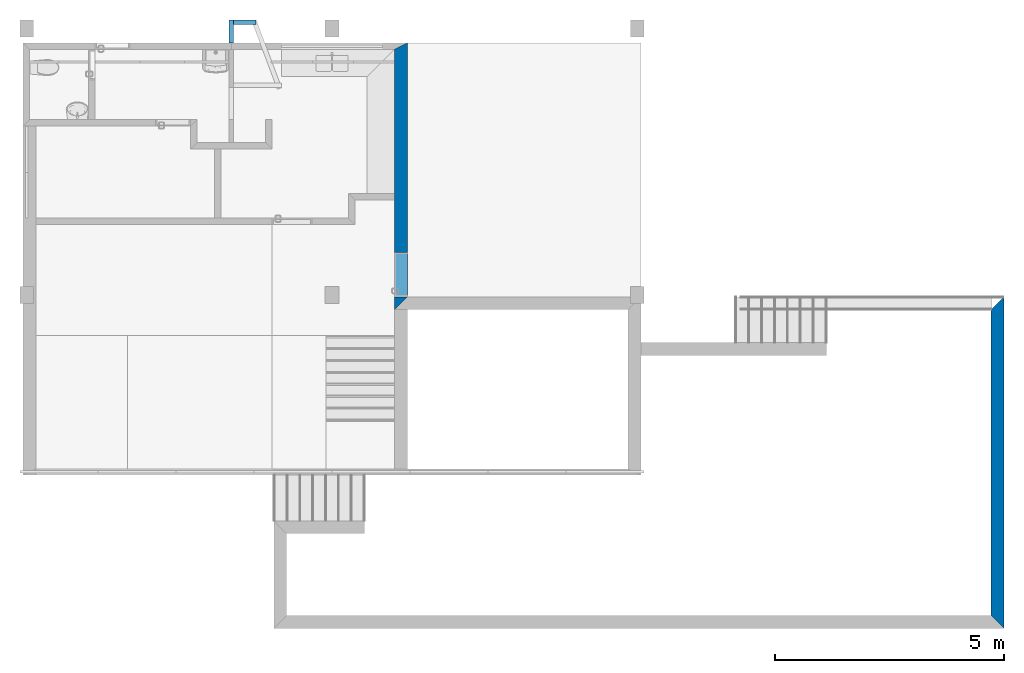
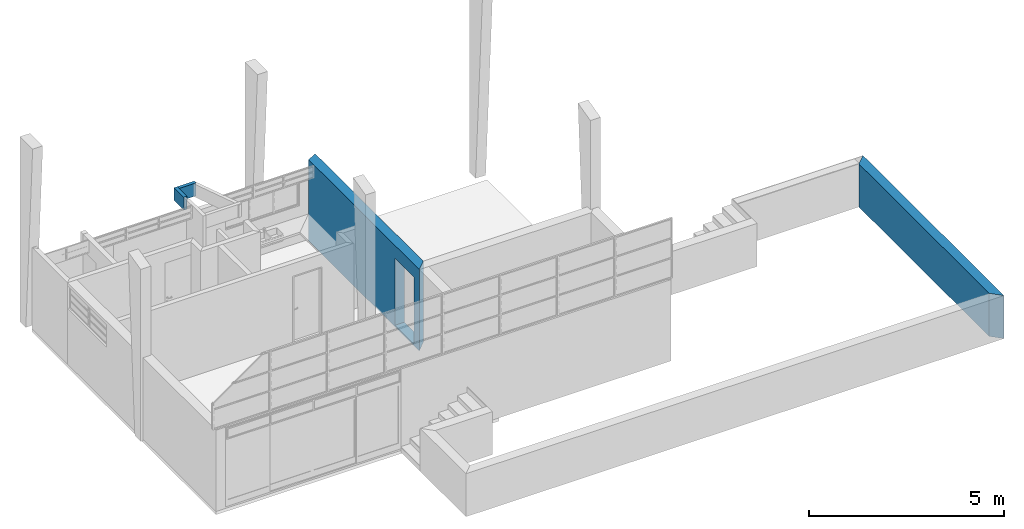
# One storey, part 7 of 16: 4 walls, 1 opening.
"""IFC2X3 building model written with IfcOpenShell, lengths in millimetres."""

from ifc_helpers import new_model, entity, si_unit, converted_unit, derived_unit, money_unit, direction, frame, origin_with_axes, origin_2d_with_axis, place, context, subcontext, project, spatial, polyline, rectangle, outline, extrude, material, layer, layer_set, layer_usage, type_object, element, save


model = new_model("IFC2X3")

# Units and contexts
model_context = context("Model", 3, precision=0.01, world=origin_with_axes(), true_north=direction((0.293984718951, 0.955810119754)))
body_context = subcontext(model_context, "Body", "Model", "MODEL_VIEW")
ifc_project = project(units=[si_unit("LENGTHUNIT", "METRE", prefix="MILLI"), si_unit("AREAUNIT", "SQUARE_METRE"), si_unit("VOLUMEUNIT", "CUBIC_METRE"), converted_unit("PLANEANGLEUNIT", "DEGREE", entity("IfcPlaneAngleMeasure", 0.0174532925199), si_unit("PLANEANGLEUNIT", "RADIAN"), dimensions=[0, 0, 0, 0, 0, 0, 0]), si_unit("SOLIDANGLEUNIT", "STERADIAN"), money_unit("USD"), converted_unit("TIMEUNIT", "Year", entity("IfcTimeMeasure", 31556926.0), si_unit("TIMEUNIT", "SECOND"), dimensions=[0, 0, 1, 0, 0, 0, 0]), si_unit("MASSUNIT", "GRAM", prefix="KILO"), si_unit("THERMODYNAMICTEMPERATUREUNIT", "DEGREE_CELSIUS"), si_unit("LUMINOUSINTENSITYUNIT", "LUMEN"), si_unit("ENERGYUNIT", "JOULE", prefix="MEGA"), derived_unit("THERMALCONDUCTANCEUNIT", [(si_unit("POWERUNIT", "WATT"), 1), (si_unit("LENGTHUNIT", "METRE"), -1), (si_unit("THERMODYNAMICTEMPERATUREUNIT", "KELVIN"), -1)]), derived_unit("SPECIFICHEATCAPACITYUNIT", [(si_unit("ENERGYUNIT", "JOULE"), 1), (si_unit("MASSUNIT", "GRAM", prefix="KILO"), -1), (si_unit("THERMODYNAMICTEMPERATUREUNIT", "KELVIN"), -1)]), derived_unit("MASSDENSITYUNIT", [(si_unit("MASSUNIT", "GRAM", prefix="KILO"), 1), (si_unit("VOLUMEUNIT", "CUBIC_METRE"), -1)])], contexts=[model_context])

# Site, building, storey
site_placement = place(None, origin_with_axes())
site = spatial("IfcSite", under=ifc_project, at=site_placement, Name="Local", CompositionType="ELEMENT")
building_placement = place(site_placement, origin_with_axes())
building = spatial("IfcBuilding", under=site, at=building_placement, Name="Construção", CompositionType="ELEMENT")
storey_placement = place(building_placement, origin_with_axes())
storey = spatial("IfcBuildingStorey", under=building, at=storey_placement, Name="Pavimento Térreo", CompositionType="ELEMENT", Elevation=0.0)

# Wall, opening
ifc_material_1 = material(Name="Reboco")
ifc_layer_1 = layer(ifc_material_1, 20.0, ventilated="UNKNOWN")
ifc_material_2 = material(Name="Tijolo - Estrutural")
ifc_layer_2 = layer(ifc_material_2, 240.0, ventilated="UNKNOWN")
ifc_layer_3 = layer(ifc_material_1, 20.0, ventilated="UNKNOWN")
ifc_layer_set_1 = layer_set([ifc_layer_1, ifc_layer_2, ifc_layer_3], Name="Alvenaria Tijolo Maciço com Revestimento 28cm")
ifc_layer_usage_1 = layer_usage(ifc_layer_set_1, "AXIS2", "NEGATIVE", 0.0)
wall_type_1 = type_object("IfcWallType", Name="Alvenaria Tijolo Maciço com Revestimento 28cm 280", PredefinedType="NOTDEFINED")
wall_1_placement = place(storey_placement, frame((15479.6450727, 12800.6321979, 50.0), z_axis=(0.0, 0.0, 1.0), x_axis=(0.0, -1.0, 0.0)))
wall_1 = element("IfcWallStandardCase", 1, at=wall_1_placement, inside=storey, type_object=wall_type_1, material=ifc_layer_usage_1, Name="Parede", context=body_context, shape_type="SweptSolid", body=[
    extrude(outline(polyline([(139.999999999, -280.0), (5830.0, -280.0), (5550.0, 0.0), (0.0, 0.0), (139.999999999, -280.0)])), origin_with_axes(), (0.0, 0.0, 1.0), 2550.0),
])
opening_placement = place(wall_1_placement, frame((5065.0, 0.0, 50.0), z_axis=(0.0, 0.0, 1.0), x_axis=(1.0, 0.0, 0.0)))
element("IfcOpeningElement", 2, at=opening_placement, cuts=wall_1, Name="P06", context=body_context, shape_type="SweptSolid", body=[
    extrude(rectangle(XDim=970.0, YDim=2100.0, at=origin_2d_with_axis()), frame((0.0, -280.0, 1050.0), z_axis=(0.0, 1.0, 0.0), x_axis=(-1.0, 0.0, 0.0)), (0.0, 0.0, 1.0), 840.0),
])

# Walls
ifc_layer_usage_2 = layer_usage(ifc_layer_set_1, "AXIS2", "POSITIVE", 0.0)
wall_2_placement = place(storey_placement, frame((28519.6450727, 0.0, 0.0), z_axis=(0.0, 0.0, 1.0), x_axis=(0.0, 1.0, 0.0)))
element("IfcWallStandardCase", 3, at=wall_2_placement, inside=storey, type_object=wall_type_1, material=ifc_layer_usage_2, Name="Parede", context=body_context, shape_type="SweptSolid", body=[
    extrude(outline(polyline([(0.0, 0.0), (7250.63219788, 0.0), (6970.63219788, 280.0), (280.0, 280.0), (0.0, 0.0)])), origin_with_axes(), (0.0, 0.0, 1.0), 1350.0),
])
ifc_material_3 = material(Name="Reboco (1)")
ifc_layer_4 = layer(ifc_material_3, 20.0, ventilated="UNKNOWN")
ifc_material_4 = material(Name="Tijolo - Estrutural (1)")
ifc_layer_5 = layer(ifc_material_4, 60.0, ventilated="UNKNOWN")
ifc_layer_6 = layer(ifc_material_3, 20.0, ventilated="UNKNOWN")
ifc_layer_set_2 = layer_set([ifc_layer_4, ifc_layer_5, ifc_layer_6], Name="Alvenaria Tijolo Maciço com Revestimento 10cm")
ifc_layer_usage_3 = layer_usage(ifc_layer_set_2, "AXIS2", "POSITIVE", 0.0)
wall_type_2 = type_object("IfcWallType", Name="Alvenaria Tijolo Maciço com Revestimento 10cm 100", PredefinedType="NOTDEFINED")
wall_3_placement = place(storey_placement, frame((12173.5533687, 13300.6321979, 2200.0), z_axis=(0.0, 0.0, 1.0), x_axis=(-1.0, 0.0, 0.0)))
element("IfcWallStandardCase", 4, at=wall_3_placement, inside=storey, type_object=wall_type_2, material=ifc_layer_usage_3, Name="Parede", context=body_context, shape_type="SweptSolid", body=[
    extrude(outline(polyline([(0.0, 0.0), (593.908295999, 0.0), (593.908295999, 100.0), (0.0, 100.0), (0.0, 0.0)])), origin_with_axes(), (0.0, 0.0, 1.0), 400.0),
])
ifc_layer_usage_4 = layer_usage(ifc_layer_set_2, "AXIS2", "POSITIVE", 0.0)
wall_4_placement = place(storey_placement, frame((11579.6450727, 13300.6321979, 2200.0), z_axis=(0.0, 0.0, 1.0), x_axis=(0.0, -1.0, 0.0)))
element("IfcWallStandardCase", 5, at=wall_4_placement, inside=storey, type_object=wall_type_2, material=ifc_layer_usage_4, Name="Parede", context=body_context, shape_type="SweptSolid", body=[
    extrude(outline(polyline([(0.0, 0.0), (499.999999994, 0.0), (499.999999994, 100.0), (0.0, 100.0), (0.0, 0.0)])), origin_with_axes(), (0.0, 0.0, 1.0), 400.0),
])

save(model, "model.ifc")
